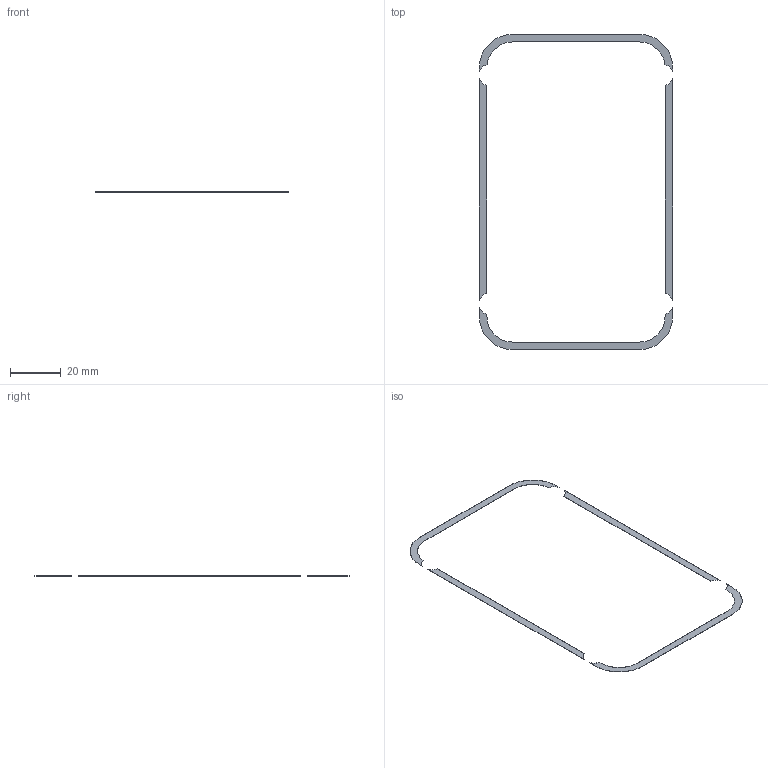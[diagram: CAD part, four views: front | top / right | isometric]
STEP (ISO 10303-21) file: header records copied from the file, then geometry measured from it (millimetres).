
FILE_DESCRIPTION(('Open CASCADE Model'),'2;1');
FILE_NAME('Open CASCADE Shape Model','2026-09-06T11:39:02',('Author'),( 'Open CASCADE'),'Open CASCADE STEP processor 7.7','Open CASCADE 7.7' ,'Unknown');
FILE_SCHEMA(('AUTOMOTIVE_DESIGN { 1 0 10303 214 1 1 1 1 }'));
Length unit declared in the file: millimetre
Products named in the file (5): Open CASCADE STEP translator 7.7 2; Open CASCADE STEP translator 7.7 2.1; Open CASCADE STEP translator 7.7 2.2; Open CASCADE STEP translator 7.7 2.3; Open CASCADE STEP translator 7.7 2.4
Assembly tree (4 placements, depth 2):
  Open CASCADE STEP translator 7.7 2
    Open CASCADE STEP translator 7.7 2.1
    Open CASCADE STEP translator 7.7 2.2
    Open CASCADE STEP translator 7.7 2.3
    Open CASCADE STEP translator 7.7 2.4
Bounding box: 76 x 124 x 0.1 mm (x, y, z)
Volume: 102.7 mm3; surface area: 2126.3 mm2
Topology: 4 solids, 4 shells, 38 faces, 90 edges, 60 vertices
Faces by surface type: plane 22, cylinder 16
Entity records: 2356 total; most frequent: CARTESIAN_POINT 549, DIRECTION 312, ORIENTED_EDGE 180, PCURVE 180, DEFINITIONAL_REPRESENTATION 180, LINE 150, VECTOR 150, EDGE_CURVE 90
